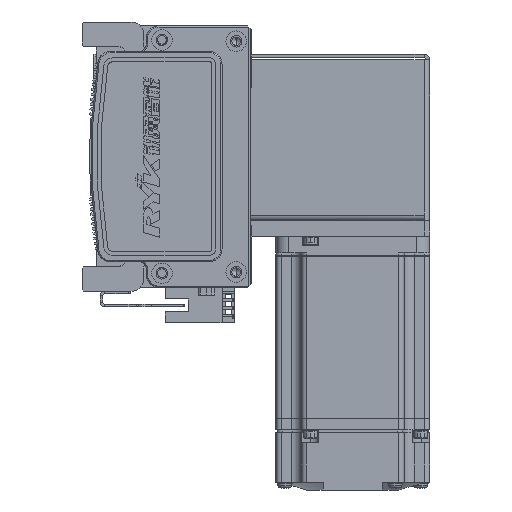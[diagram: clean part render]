
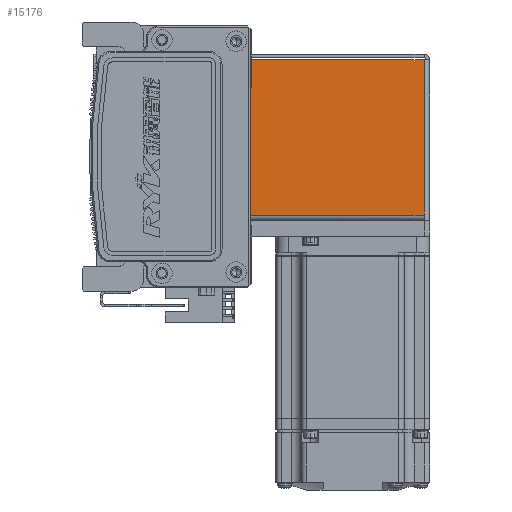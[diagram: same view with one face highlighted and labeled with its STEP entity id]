
A CAD part, left-side view. The second image highlights one B-rep face of the part: STEP entity #15176.
In plain terms, the highlighted planar face has unit normal (-1, 0, 0) as drawn and (0, 0, -1) by its records, which use the part's own axes.
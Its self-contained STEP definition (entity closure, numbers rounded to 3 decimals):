
#5921 = CARTESIAN_POINT ( 'NONE',  ( 0., 0., -35. ) ) ;
#7851 = LINE ( 'NONE', #55348, #45745 ) ;
#9958 = DIRECTION ( 'NONE',  ( 0., 1., 0. ) ) ;
#15171 = DIRECTION ( 'NONE',  ( 1., 0., 0. ) ) ;
#15176 = ADVANCED_FACE ( 'NONE', ( #38100 ), #47126, .F. ) ;
#15358 = LINE ( 'NONE', #30468, #30683 ) ;
#15401 = CARTESIAN_POINT ( 'NONE',  ( 30.263, 72.5, -35. ) ) ;
#19546 = EDGE_CURVE ( 'NONE', #28597, #62086, #30010, .T. ) ;
#20322 = VECTOR ( 'NONE', #60926, 1000. ) ;
#21477 = DIRECTION ( 'NONE',  ( 0., -1., 0. ) ) ;
#21979 = ORIENTED_EDGE ( 'NONE', *, *, #28497, .T. ) ;
#24176 = EDGE_LOOP ( 'NONE', ( #62208, #53542, #47796, #21979 ) ) ;
#26120 = VERTEX_POINT ( 'NONE', #26261 ) ;
#26261 = CARTESIAN_POINT ( 'NONE',  ( -30.293, 72.5, -35. ) ) ;
#28497 = EDGE_CURVE ( 'NONE', #26120, #28597, #49589, .T. ) ;
#28597 = VERTEX_POINT ( 'NONE', #15401 ) ;
#30010 = LINE ( 'NONE', #35879, #20322 ) ;
#30468 = CARTESIAN_POINT ( 'NONE',  ( -30.293, 0., -35. ) ) ;
#30683 = VECTOR ( 'NONE', #9958, 1000. ) ;
#33468 = VECTOR ( 'NONE', #15171, 1000. ) ;
#35879 = CARTESIAN_POINT ( 'NONE',  ( 30.263, 72.5, -35. ) ) ;
#38100 = FACE_OUTER_BOUND ( 'NONE', #24176, .T. ) ;
#40846 = EDGE_CURVE ( 'NONE', #57800, #26120, #15358, .T. ) ;
#43415 = EDGE_CURVE ( 'NONE', #57800, #62086, #7851, .T. ) ;
#45745 = VECTOR ( 'NONE', #60748, 1000. ) ;
#46576 = CARTESIAN_POINT ( 'NONE',  ( -30.293, 0.737, -35. ) ) ;
#47126 = PLANE ( 'NONE',  #53878 ) ;
#47796 = ORIENTED_EDGE ( 'NONE', *, *, #40846, .T. ) ;
#49589 = LINE ( 'NONE', #51449, #33468 ) ;
#51449 = CARTESIAN_POINT ( 'NONE',  ( 0., 72.5, -35. ) ) ;
#53542 = ORIENTED_EDGE ( 'NONE', *, *, #43415, .F. ) ;
#53878 = AXIS2_PLACEMENT_3D ( 'NONE', #5921, #57286, #21477 ) ;
#54316 = CARTESIAN_POINT ( 'NONE',  ( 30.263, 0.737, -35. ) ) ;
#55348 = CARTESIAN_POINT ( 'NONE',  ( 32.5, 0.737, -35. ) ) ;
#57286 = DIRECTION ( 'NONE',  ( 0., 0., 1. ) ) ;
#57800 = VERTEX_POINT ( 'NONE', #46576 ) ;
#60748 = DIRECTION ( 'NONE',  ( 1., 0., 0. ) ) ;
#60926 = DIRECTION ( 'NONE',  ( 0., -1., 0. ) ) ;
#62086 = VERTEX_POINT ( 'NONE', #54316 ) ;
#62208 = ORIENTED_EDGE ( 'NONE', *, *, #19546, .T. ) ;
